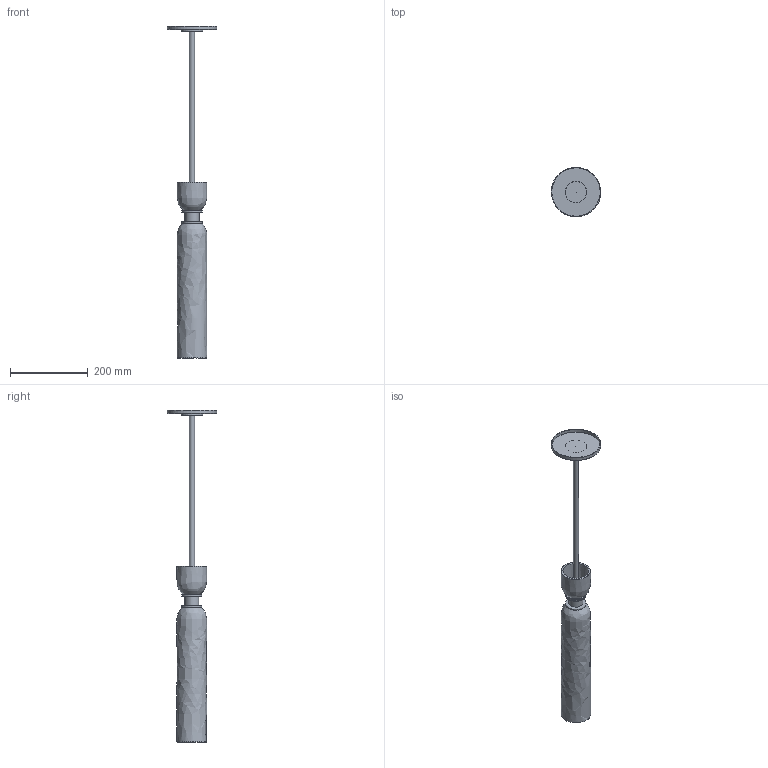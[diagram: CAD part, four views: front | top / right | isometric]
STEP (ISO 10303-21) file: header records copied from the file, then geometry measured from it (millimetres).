
FILE_DESCRIPTION(/* description */ (''),/* implementation_level */ '2;1');
FILE_NAME(/* name */ 'Untitled',/* time_stamp */ '2025-08-05T10:38:34+02:00',/* author */ (''),/* organization */ (''),/* preprocessor_version */ 'ST-DEVELOPER v16.5',/* originating_system */ 'Rhino 7.38',/* authorisation */ '');
FILE_SCHEMA (('CONFIG_CONTROL_DESIGN'));
Length unit declared in the file: millimetre
Products named in the file (1): Document
Bounding box: 126.98 x 126.86 x 851.91 mm (x, y, z)
Volume: 619786.5 mm3; surface area: 288022.9 mm2
Topology: 16 solids, 17 shells, 101 faces, 208 edges, 125 vertices
Faces by surface type: bspline 46, plane 29, cylinder 26
Full cylindrical faces by diameter (mm): 9.185 x5, 10.2 x2, 13 x2, 18.275 x1, 25 x1, 36 x4, 38 x2, 44 x1, 46 x1, 48 x2, 52 x1, 124 x1, 127 x1
Entity records: 18825 total; most frequent: CARTESIAN_POINT 17415, ORIENTED_EDGE 393, EDGE_CURVE 197, VERTEX_POINT 122, EDGE_LOOP 110, ADVANCED_FACE 101, FACE_OUTER_BOUND 101, B_SPLINE_CURVE_WITH_KNOTS 77
